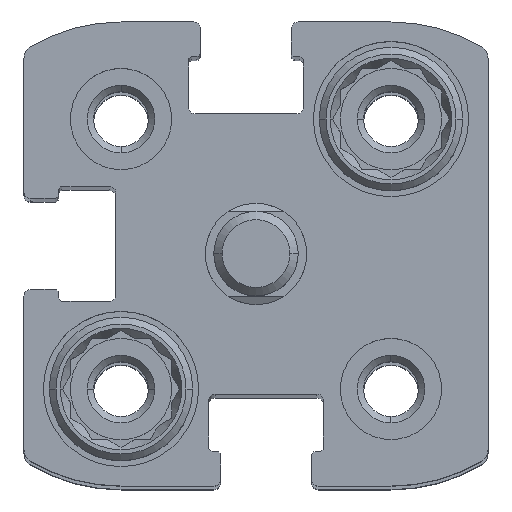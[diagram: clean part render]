
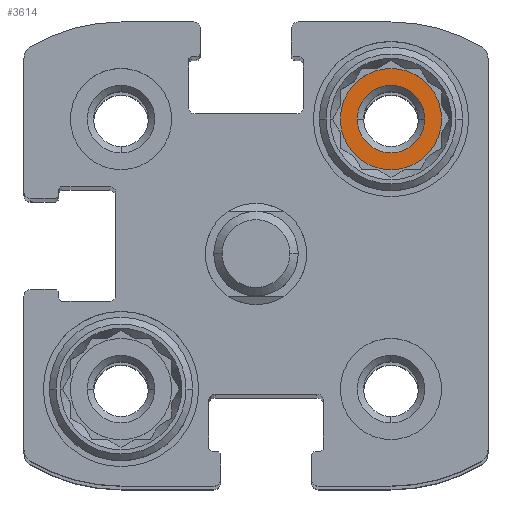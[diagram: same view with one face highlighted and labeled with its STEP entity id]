
A CAD part, top view. The second image highlights one B-rep face of the part: STEP entity #3614.
In plain terms, the highlighted planar face has unit normal (0, 0, 1).
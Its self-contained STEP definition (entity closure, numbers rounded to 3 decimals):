
#742 = CARTESIAN_POINT ( 'NONE',  ( 8., 8., -3.5 ) ) ;
#990 = VERTEX_POINT ( 'NONE', #11517 ) ;
#1019 = DIRECTION ( 'NONE',  ( 0., 0., -1. ) ) ;
#1030 = AXIS2_PLACEMENT_3D ( 'NONE', #10081, #6796, #4828 ) ;
#1143 = CARTESIAN_POINT ( 'NONE',  ( 8., 8., -3.5 ) ) ;
#1601 = FACE_BOUND ( 'NONE', #10976, .T. ) ;
#1625 = CIRCLE ( 'NONE', #1030, 2. ) ;
#1715 = VERTEX_POINT ( 'NONE', #1934 ) ;
#1934 = CARTESIAN_POINT ( 'NONE',  ( 6., 8., -3.5 ) ) ;
#2128 = EDGE_CURVE ( 'NONE', #1715, #9742, #2130, .T. ) ;
#2130 = CIRCLE ( 'NONE', #6696, 2. ) ;
#2449 = PLANE ( 'NONE',  #3442 ) ;
#2525 = CARTESIAN_POINT ( 'NONE',  ( 8., 8., -3.5 ) ) ;
#2627 = CARTESIAN_POINT ( 'NONE',  ( 11., 8., -3.5 ) ) ;
#3340 = EDGE_CURVE ( 'NONE', #9742, #1715, #1625, .T. ) ;
#3403 = CARTESIAN_POINT ( 'NONE',  ( 8., 11., -3.5 ) ) ;
#3442 = AXIS2_PLACEMENT_3D ( 'NONE', #3403, #6136, #5235 ) ;
#3614 = ADVANCED_FACE ( 'NONE', ( #6961, #1601 ), #2449, .T. ) ;
#3900 = EDGE_LOOP ( 'NONE', ( #9935, #3929 ) ) ;
#3929 = ORIENTED_EDGE ( 'NONE', *, *, #10151, .F. ) ;
#4704 = CIRCLE ( 'NONE', #10974, 3. ) ;
#4828 = DIRECTION ( 'NONE',  ( -1., 0., 0. ) ) ;
#5005 = ORIENTED_EDGE ( 'NONE', *, *, #3340, .T. ) ;
#5235 = DIRECTION ( 'NONE',  ( 1., 0., 0. ) ) ;
#5606 = CIRCLE ( 'NONE', #11478, 3. ) ;
#6136 = DIRECTION ( 'NONE',  ( 0., 0., 1. ) ) ;
#6282 = DIRECTION ( 'NONE',  ( 0., 0., -1. ) ) ;
#6696 = AXIS2_PLACEMENT_3D ( 'NONE', #1143, #1019, #10963 ) ;
#6796 = DIRECTION ( 'NONE',  ( 0., 0., -1. ) ) ;
#6961 = FACE_OUTER_BOUND ( 'NONE', #3900, .T. ) ;
#7098 = ORIENTED_EDGE ( 'NONE', *, *, #2128, .T. ) ;
#8004 = DIRECTION ( 'NONE',  ( 0., 0., -1. ) ) ;
#8014 = CARTESIAN_POINT ( 'NONE',  ( 10., 8., -3.5 ) ) ;
#8054 = DIRECTION ( 'NONE',  ( -1., 0., 0. ) ) ;
#8120 = DIRECTION ( 'NONE',  ( -1., 0., 0. ) ) ;
#8881 = VERTEX_POINT ( 'NONE', #2627 ) ;
#9742 = VERTEX_POINT ( 'NONE', #8014 ) ;
#9935 = ORIENTED_EDGE ( 'NONE', *, *, #11453, .F. ) ;
#10081 = CARTESIAN_POINT ( 'NONE',  ( 8., 8., -3.5 ) ) ;
#10151 = EDGE_CURVE ( 'NONE', #8881, #990, #4704, .T. ) ;
#10963 = DIRECTION ( 'NONE',  ( -1., 0., 0. ) ) ;
#10974 = AXIS2_PLACEMENT_3D ( 'NONE', #2525, #6282, #8054 ) ;
#10976 = EDGE_LOOP ( 'NONE', ( #5005, #7098 ) ) ;
#11453 = EDGE_CURVE ( 'NONE', #990, #8881, #5606, .T. ) ;
#11478 = AXIS2_PLACEMENT_3D ( 'NONE', #742, #8004, #8120 ) ;
#11517 = CARTESIAN_POINT ( 'NONE',  ( 5., 8., -3.5 ) ) ;
